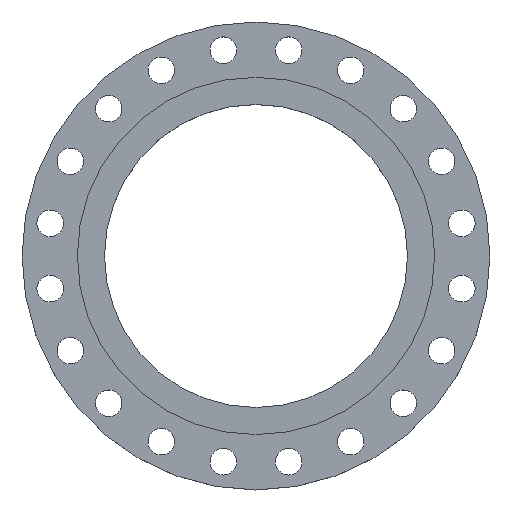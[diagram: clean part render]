
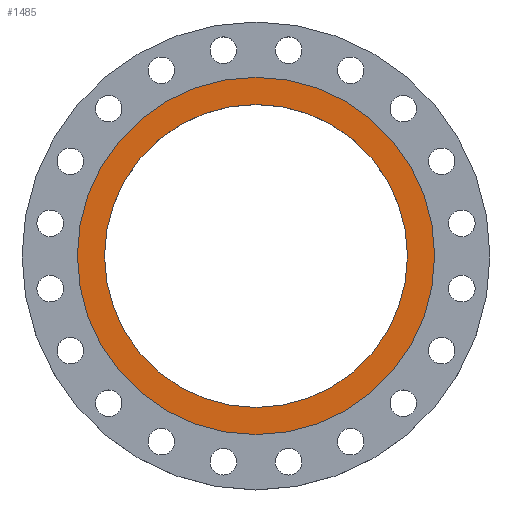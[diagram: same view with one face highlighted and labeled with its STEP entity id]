
A CAD part, top view. The second image highlights one B-rep face of the part: STEP entity #1485.
In plain terms, the highlighted planar face has unit normal (0, 0, 1).
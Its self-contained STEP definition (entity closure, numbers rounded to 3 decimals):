
#8 = CARTESIAN_POINT ( 'NONE',  ( -221.752, 0., 0. ) ) ;
#95 = EDGE_CURVE ( 'NONE', #1140, #1051, #1393, .T. ) ;
#125 = AXIS2_PLACEMENT_3D ( 'NONE', #1027, #1023, #1022 ) ;
#219 = CIRCLE ( 'NONE', #221, 221.752 ) ;
#221 = AXIS2_PLACEMENT_3D ( 'NONE', #432, #431, #430 ) ;
#234 = DIRECTION ( 'NONE',  ( 1., 0., 0. ) ) ;
#235 = DIRECTION ( 'NONE',  ( 0., 0., 1. ) ) ;
#237 = CARTESIAN_POINT ( 'NONE',  ( 0., 0., 0. ) ) ;
#238 = PLANE ( 'NONE',  #1682 ) ;
#239 = FACE_OUTER_BOUND ( 'NONE', #1404, .T. ) ;
#240 = FACE_BOUND ( 'NONE', #1517, .T. ) ;
#303 = DIRECTION ( 'NONE',  ( 1., 0., 0. ) ) ;
#305 = DIRECTION ( 'NONE',  ( 0., 0., 1. ) ) ;
#306 = CARTESIAN_POINT ( 'NONE',  ( 0., 0., 0. ) ) ;
#353 = CARTESIAN_POINT ( 'NONE',  ( 221.752, 0., 0. ) ) ;
#430 = DIRECTION ( 'NONE',  ( 1., 0., 0. ) ) ;
#431 = DIRECTION ( 'NONE',  ( 0., 0., 1. ) ) ;
#432 = CARTESIAN_POINT ( 'NONE',  ( 0., 0., 0. ) ) ;
#504 = EDGE_CURVE ( 'NONE', #1051, #1140, #656, .T. ) ;
#525 = CARTESIAN_POINT ( 'NONE',  ( -261.5, 0., 0. ) ) ;
#594 = CARTESIAN_POINT ( 'NONE',  ( 261.5, 0., 0. ) ) ;
#656 = CIRCLE ( 'NONE', #687, 261.5 ) ;
#687 = AXIS2_PLACEMENT_3D ( 'NONE', #831, #830, #828 ) ;
#828 = DIRECTION ( 'NONE',  ( -1., 0., 0. ) ) ;
#830 = DIRECTION ( 'NONE',  ( 0., 0., -1. ) ) ;
#831 = CARTESIAN_POINT ( 'NONE',  ( 0., 0., 0. ) ) ;
#1022 = DIRECTION ( 'NONE',  ( -1., 0., 0. ) ) ;
#1023 = DIRECTION ( 'NONE',  ( 0., 0., -1. ) ) ;
#1027 = CARTESIAN_POINT ( 'NONE',  ( 0., 0., 0. ) ) ;
#1051 = VERTEX_POINT ( 'NONE', #594 ) ;
#1140 = VERTEX_POINT ( 'NONE', #525 ) ;
#1147 = CIRCLE ( 'NONE', #1817, 221.752 ) ;
#1205 = ORIENTED_EDGE ( 'NONE', *, *, #504, .F. ) ;
#1207 = ORIENTED_EDGE ( 'NONE', *, *, #95, .F. ) ;
#1209 = ORIENTED_EDGE ( 'NONE', *, *, #1436, .F. ) ;
#1210 = ORIENTED_EDGE ( 'NONE', *, *, #1308, .F. ) ;
#1308 = EDGE_CURVE ( 'NONE', #1402, #1791, #219, .T. ) ;
#1393 = CIRCLE ( 'NONE', #125, 261.5 ) ;
#1402 = VERTEX_POINT ( 'NONE', #353 ) ;
#1404 = EDGE_LOOP ( 'NONE', ( #1207, #1205 ) ) ;
#1436 = EDGE_CURVE ( 'NONE', #1791, #1402, #1147, .T. ) ;
#1485 = ADVANCED_FACE ( 'NONE', ( #240, #239 ), #238, .T. ) ;
#1517 = EDGE_LOOP ( 'NONE', ( #1210, #1209 ) ) ;
#1682 = AXIS2_PLACEMENT_3D ( 'NONE', #237, #235, #234 ) ;
#1791 = VERTEX_POINT ( 'NONE', #8 ) ;
#1817 = AXIS2_PLACEMENT_3D ( 'NONE', #306, #305, #303 ) ;
